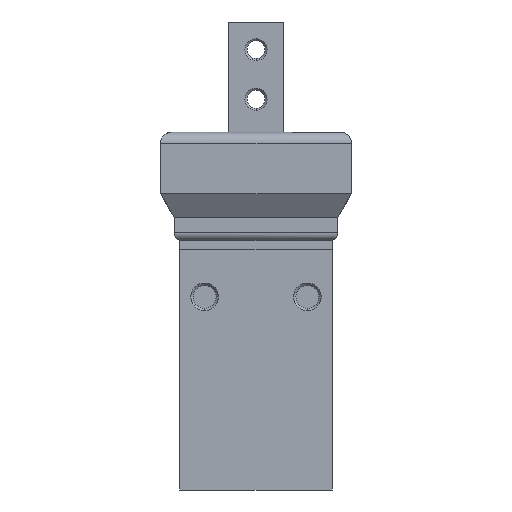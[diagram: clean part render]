
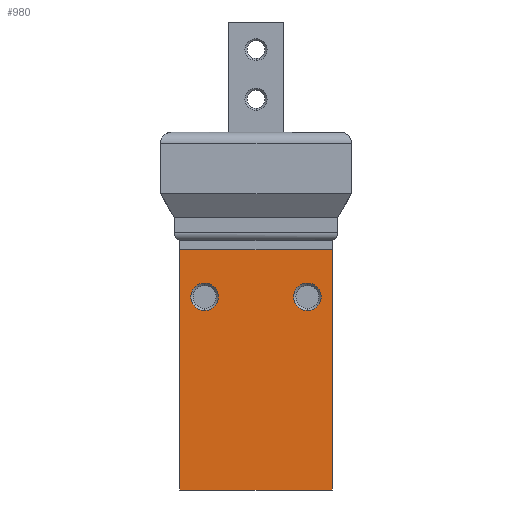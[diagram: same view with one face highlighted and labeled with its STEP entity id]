
A CAD part, left-side view. The second image highlights one B-rep face of the part: STEP entity #980.
In plain terms, the highlighted planar face has unit normal (-1, 0, 0).
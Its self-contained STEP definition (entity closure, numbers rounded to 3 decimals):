
#123 = ORIENTED_EDGE ( 'NONE', *, *, #2298, .F. ) ;
#219 = DIRECTION ( 'NONE',  ( -1., 0., 0. ) ) ;
#302 = EDGE_CURVE ( 'NONE', #5110, #5654, #4467, .T. ) ;
#307 = LINE ( 'NONE', #5900, #6845 ) ;
#489 = CARTESIAN_POINT ( 'NONE',  ( -21., -13.8, 0. ) ) ;
#526 = CARTESIAN_POINT ( 'NONE',  ( -21., 13.8, 43.5 ) ) ;
#645 = CARTESIAN_POINT ( 'NONE',  ( -21., -9.3, 35. ) ) ;
#703 = DIRECTION ( 'NONE',  ( -1., 0., 0. ) ) ;
#773 = EDGE_LOOP ( 'NONE', ( #6992, #123, #4129, #2773 ) ) ;
#834 = VECTOR ( 'NONE', #3863, 1000. ) ;
#915 = CARTESIAN_POINT ( 'NONE',  ( -21., 9.3, 35. ) ) ;
#980 = ADVANCED_FACE ( 'NONE', ( #3878, #2742, #3286 ), #4902, .F. ) ;
#991 = CARTESIAN_POINT ( 'NONE',  ( -21., 13.8, 43.5 ) ) ;
#1050 = CARTESIAN_POINT ( 'NONE',  ( -21., 9.3, 37.5 ) ) ;
#1090 = CARTESIAN_POINT ( 'NONE',  ( -21., 9.3, 32.5 ) ) ;
#1353 = ORIENTED_EDGE ( 'NONE', *, *, #2006, .F. ) ;
#1480 = VERTEX_POINT ( 'NONE', #2628 ) ;
#1731 = DIRECTION ( 'NONE',  ( 0., 0., 1. ) ) ;
#1859 = ORIENTED_EDGE ( 'NONE', *, *, #302, .F. ) ;
#2006 = EDGE_CURVE ( 'NONE', #5654, #5110, #4552, .T. ) ;
#2141 = ORIENTED_EDGE ( 'NONE', *, *, #3786, .F. ) ;
#2298 = EDGE_CURVE ( 'NONE', #6593, #6457, #4413, .T. ) ;
#2300 = VERTEX_POINT ( 'NONE', #1090 ) ;
#2325 = VECTOR ( 'NONE', #3253, 1000. ) ;
#2578 = CARTESIAN_POINT ( 'NONE',  ( -21., -9.3, 32.5 ) ) ;
#2628 = CARTESIAN_POINT ( 'NONE',  ( -21., 13.8, 0. ) ) ;
#2631 = DIRECTION ( 'NONE',  ( 0., 0., 1. ) ) ;
#2635 = CIRCLE ( 'NONE', #4154, 2.5 ) ;
#2661 = AXIS2_PLACEMENT_3D ( 'NONE', #915, #3140, #2631 ) ;
#2712 = EDGE_CURVE ( 'NONE', #2300, #7081, #5350, .T. ) ;
#2742 = FACE_BOUND ( 'NONE', #5319, .T. ) ;
#2773 = ORIENTED_EDGE ( 'NONE', *, *, #3417, .T. ) ;
#3140 = DIRECTION ( 'NONE',  ( -1., 0., 0. ) ) ;
#3253 = DIRECTION ( 'NONE',  ( 0., 0., -1. ) ) ;
#3286 = FACE_BOUND ( 'NONE', #3571, .T. ) ;
#3417 = EDGE_CURVE ( 'NONE', #4749, #1480, #4218, .T. ) ;
#3539 = DIRECTION ( 'NONE',  ( 0., 0., 1. ) ) ;
#3571 = EDGE_LOOP ( 'NONE', ( #2141, #3927 ) ) ;
#3603 = CARTESIAN_POINT ( 'NONE',  ( -21., 13.8, 43.5 ) ) ;
#3641 = CARTESIAN_POINT ( 'NONE',  ( -21., -9.3, 37.5 ) ) ;
#3786 = EDGE_CURVE ( 'NONE', #7081, #2300, #2635, .T. ) ;
#3863 = DIRECTION ( 'NONE',  ( 0., 0., -1. ) ) ;
#3878 = FACE_OUTER_BOUND ( 'NONE', #773, .T. ) ;
#3927 = ORIENTED_EDGE ( 'NONE', *, *, #2712, .F. ) ;
#3951 = EDGE_CURVE ( 'NONE', #1480, #6457, #307, .T. ) ;
#3982 = CARTESIAN_POINT ( 'NONE',  ( -21., -13.8, 43.5 ) ) ;
#3990 = CARTESIAN_POINT ( 'NONE',  ( -21., 9.3, 35. ) ) ;
#4129 = ORIENTED_EDGE ( 'NONE', *, *, #5558, .F. ) ;
#4154 = AXIS2_PLACEMENT_3D ( 'NONE', #3990, #703, #1731 ) ;
#4218 = LINE ( 'NONE', #6460, #2325 ) ;
#4357 = AXIS2_PLACEMENT_3D ( 'NONE', #6889, #219, #3539 ) ;
#4392 = DIRECTION ( 'NONE',  ( 1., 0., 0. ) ) ;
#4413 = LINE ( 'NONE', #6656, #834 ) ;
#4467 = CIRCLE ( 'NONE', #4357, 2.5 ) ;
#4552 = CIRCLE ( 'NONE', #6449, 2.5 ) ;
#4749 = VERTEX_POINT ( 'NONE', #3603 ) ;
#4902 = PLANE ( 'NONE',  #6843 ) ;
#5110 = VERTEX_POINT ( 'NONE', #2578 ) ;
#5319 = EDGE_LOOP ( 'NONE', ( #1353, #1859 ) ) ;
#5350 = CIRCLE ( 'NONE', #2661, 2.5 ) ;
#5558 = EDGE_CURVE ( 'NONE', #4749, #6593, #6679, .T. ) ;
#5654 = VERTEX_POINT ( 'NONE', #3641 ) ;
#5766 = DIRECTION ( 'NONE',  ( -1., 0., 0. ) ) ;
#5900 = CARTESIAN_POINT ( 'NONE',  ( -21., 13.8, 0. ) ) ;
#5980 = DIRECTION ( 'NONE',  ( 0., -1., 0. ) ) ;
#5989 = VECTOR ( 'NONE', #5980, 1000. ) ;
#6138 = DIRECTION ( 'NONE',  ( 0., 1., 0. ) ) ;
#6350 = DIRECTION ( 'NONE',  ( 0., -1., 0. ) ) ;
#6449 = AXIS2_PLACEMENT_3D ( 'NONE', #645, #5766, #6874 ) ;
#6457 = VERTEX_POINT ( 'NONE', #489 ) ;
#6460 = CARTESIAN_POINT ( 'NONE',  ( -21., 13.8, 43.5 ) ) ;
#6593 = VERTEX_POINT ( 'NONE', #3982 ) ;
#6656 = CARTESIAN_POINT ( 'NONE',  ( -21., -13.8, 43.5 ) ) ;
#6679 = LINE ( 'NONE', #526, #5989 ) ;
#6843 = AXIS2_PLACEMENT_3D ( 'NONE', #991, #4392, #6138 ) ;
#6845 = VECTOR ( 'NONE', #6350, 1000. ) ;
#6874 = DIRECTION ( 'NONE',  ( 0., 0., 1. ) ) ;
#6889 = CARTESIAN_POINT ( 'NONE',  ( -21., -9.3, 35. ) ) ;
#6992 = ORIENTED_EDGE ( 'NONE', *, *, #3951, .T. ) ;
#7081 = VERTEX_POINT ( 'NONE', #1050 ) ;
